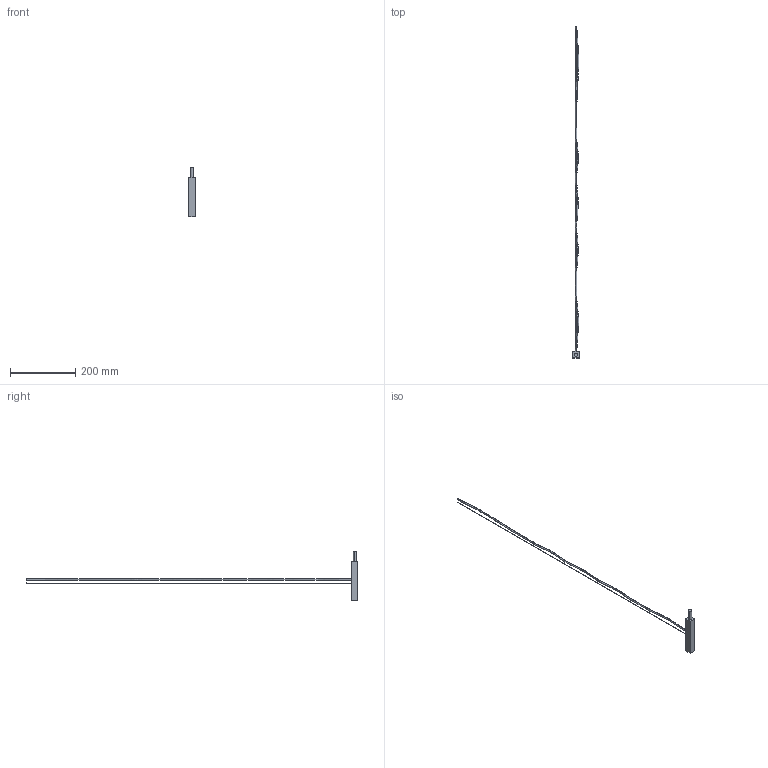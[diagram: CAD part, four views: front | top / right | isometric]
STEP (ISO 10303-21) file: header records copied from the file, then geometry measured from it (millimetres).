
FILE_DESCRIPTION (( 'STEP AP214' ), '1' );
FILE_NAME ('3D_LINESCAPES_HORIZ_START.STEP', '2018-04-09T10:58:46', ( 'Utente' ), ( '' ), 'SwSTEP 2.0', 'SolidWorks 2016', '' );
FILE_SCHEMA (( 'AUTOMOTIVE_DESIGN' ));
Length unit declared in the file: millimetre
Products named in the file (5): CAVO4.8CENTRAL; TEC; CAVO1.2; ESTRUSO; 3D_LINESCAPES_HORIZ_START
Assembly tree (4 placements, depth 2):
  3D_LINESCAPES_HORIZ_START
    ESTRUSO
    CAVO1.2
    TEC
    CAVO4.8CENTRAL
Bounding box: 20 x 1015 x 151 mm (x, y, z)
Volume: 69604.5 mm3; surface area: 30358.3 mm2
Topology: 4 solids, 4 shells, 18 faces, 30 edges, 20 vertices
Faces by surface type: plane 12, cylinder 4, bspline 2
Entity records: 1472 total; most frequent: CARTESIAN_POINT 935, DIRECTION 86, ORIENTED_EDGE 60, AXIS2_PLACEMENT_3D 35, EDGE_CURVE 30, VERTEX_POINT 20, EDGE_LOOP 18, ADVANCED_FACE 18
